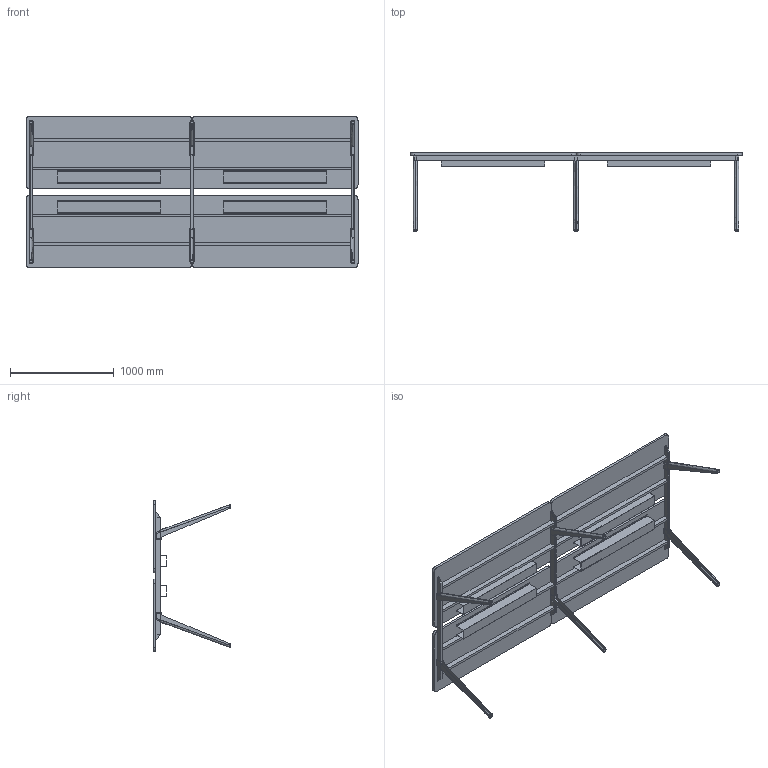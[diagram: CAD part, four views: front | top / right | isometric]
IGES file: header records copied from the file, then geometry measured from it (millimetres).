
Start section: SolidWorks IGES file using analytic representation for surfaces
Global section: file name: C:\Users\simone.cerana\OneDrive - Gruppo Tecno\Desktop\CHINA\DISEGNI DI SERIE\ASSIEMI LISTINO\HORIZON LISTINO\FULL OPTIONAL\HO3214ST.IGS; native system: SolidWorks 2024; preprocessor: SolidWorks 2024; author: simone.cerana; date: 260512.151247; units: millimetre
Bounding box: 3201 x 750.58 x 1460 mm (x, y, z)
Surface area: 14609283.4 mm2 (no closed solid volume)
Topology: 0 solids, 0 shells, 614 faces, 7166 edges, 7166 vertices
Faces by surface type: bspline 440, revolution 174
